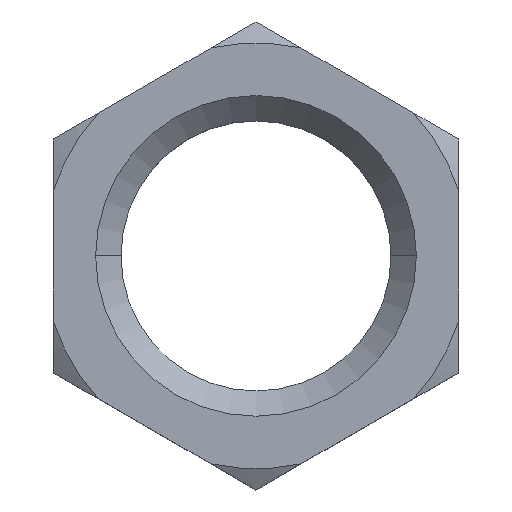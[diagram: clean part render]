
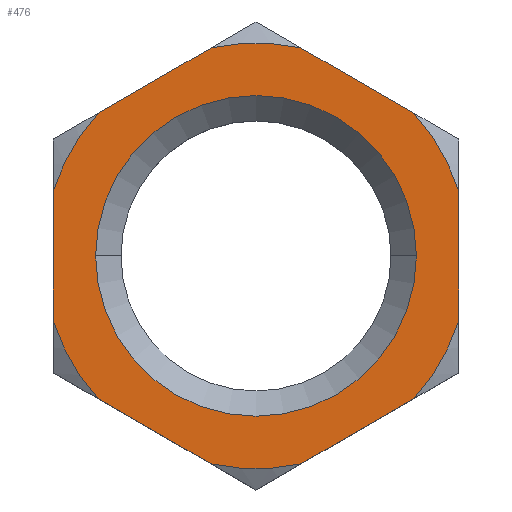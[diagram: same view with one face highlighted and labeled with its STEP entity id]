
A CAD part, top view. The second image highlights one B-rep face of the part: STEP entity #476.
In plain terms, the highlighted planar face has unit normal (0, 0, 1).
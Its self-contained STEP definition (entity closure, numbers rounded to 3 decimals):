
#11 = VERTEX_POINT ( 'NONE', #733 ) ;
#13 = CARTESIAN_POINT ( 'NONE',  ( -2.655, 12.324, 3.71 ) ) ;
#14 = EDGE_CURVE ( 'NONE', #712, #43, #148, .T. ) ;
#33 = CARTESIAN_POINT ( 'NONE',  ( 0., 13.856, 3.71 ) ) ;
#37 = EDGE_CURVE ( 'NONE', #532, #11, #877, .T. ) ;
#43 = VERTEX_POINT ( 'NONE', #824 ) ;
#45 = ORIENTED_EDGE ( 'NONE', *, *, #14, .T. ) ;
#47 = VECTOR ( 'NONE', #452, 1000. ) ;
#48 = LINE ( 'NONE', #324, #911 ) ;
#51 = VECTOR ( 'NONE', #625, 1000. ) ;
#53 = VERTEX_POINT ( 'NONE', #888 ) ;
#54 = AXIS2_PLACEMENT_3D ( 'NONE', #597, #95, #728 ) ;
#56 = EDGE_CURVE ( 'NONE', #428, #311, #48, .T. ) ;
#93 = CARTESIAN_POINT ( 'NONE',  ( 12., 6.928, 3.71 ) ) ;
#95 = DIRECTION ( 'NONE',  ( 0., 0., -1. ) ) ;
#96 = DIRECTION ( 'NONE',  ( -0.866, 0.5, 0. ) ) ;
#99 = AXIS2_PLACEMENT_3D ( 'NONE', #412, #840, #479 ) ;
#104 = CIRCLE ( 'NONE', #430, 9.5 ) ;
#118 = ORIENTED_EDGE ( 'NONE', *, *, #632, .T. ) ;
#119 = CARTESIAN_POINT ( 'NONE',  ( 0., 0., 3.71 ) ) ;
#137 = AXIS2_PLACEMENT_3D ( 'NONE', #555, #335, #766 ) ;
#148 = LINE ( 'NONE', #33, #512 ) ;
#155 = CARTESIAN_POINT ( 'NONE',  ( -9.345, -8.461, 3.71 ) ) ;
#162 = VERTEX_POINT ( 'NONE', #863 ) ;
#172 = EDGE_CURVE ( 'NONE', #428, #400, #755, .T. ) ;
#205 = DIRECTION ( 'NONE',  ( 0., 0., -1. ) ) ;
#214 = VERTEX_POINT ( 'NONE', #629 ) ;
#215 = CARTESIAN_POINT ( 'NONE',  ( 12., 3.863, 3.71 ) ) ;
#261 = DIRECTION ( 'NONE',  ( 0., 0., -1. ) ) ;
#262 = EDGE_CURVE ( 'NONE', #162, #400, #715, .T. ) ;
#285 = CARTESIAN_POINT ( 'NONE',  ( 0., 0., 3.71 ) ) ;
#289 = FACE_BOUND ( 'NONE', #455, .T. ) ;
#311 = VERTEX_POINT ( 'NONE', #802 ) ;
#324 = CARTESIAN_POINT ( 'NONE',  ( -12., -6.928, 3.71 ) ) ;
#327 = DIRECTION ( 'NONE',  ( 0.866, -0.5, 0. ) ) ;
#330 = CIRCLE ( 'NONE', #137, 12.606 ) ;
#331 = EDGE_CURVE ( 'NONE', #712, #11, #777, .T. ) ;
#333 = VERTEX_POINT ( 'NONE', #799 ) ;
#335 = DIRECTION ( 'NONE',  ( 0., 0., -1. ) ) ;
#370 = CARTESIAN_POINT ( 'NONE',  ( 0., 0., 3.71 ) ) ;
#381 = CARTESIAN_POINT ( 'NONE',  ( -12., 6.928, 3.71 ) ) ;
#389 = ORIENTED_EDGE ( 'NONE', *, *, #841, .F. ) ;
#400 = VERTEX_POINT ( 'NONE', #793 ) ;
#408 = LINE ( 'NONE', #790, #51 ) ;
#412 = CARTESIAN_POINT ( 'NONE',  ( 0., 0., 3.71 ) ) ;
#416 = CIRCLE ( 'NONE', #54, 12.606 ) ;
#418 = ORIENTED_EDGE ( 'NONE', *, *, #56, .T. ) ;
#428 = VERTEX_POINT ( 'NONE', #155 ) ;
#430 = AXIS2_PLACEMENT_3D ( 'NONE', #567, #844, #650 ) ;
#446 = CARTESIAN_POINT ( 'NONE',  ( -9.5, 0., 3.71 ) ) ;
#451 = DIRECTION ( 'NONE',  ( -0.866, -0.5, 0. ) ) ;
#452 = DIRECTION ( 'NONE',  ( 0., -1., 0. ) ) ;
#455 = EDGE_LOOP ( 'NONE', ( #118, #800 ) ) ;
#461 = EDGE_CURVE ( 'NONE', #730, #53, #408, .T. ) ;
#463 = CIRCLE ( 'NONE', #741, 12.606 ) ;
#465 = ORIENTED_EDGE ( 'NONE', *, *, #894, .F. ) ;
#476 = ADVANCED_FACE ( 'NONE', ( #289, #672 ), #903, .T. ) ;
#478 = CARTESIAN_POINT ( 'NONE',  ( 9.345, 8.461, 3.71 ) ) ;
#479 = DIRECTION ( 'NONE',  ( 1., 0., 0. ) ) ;
#480 = DIRECTION ( 'NONE',  ( -1., 0., 0. ) ) ;
#486 = DIRECTION ( 'NONE',  ( 0., 0., -1. ) ) ;
#493 = EDGE_CURVE ( 'NONE', #162, #43, #330, .T. ) ;
#512 = VECTOR ( 'NONE', #451, 1000. ) ;
#515 = CARTESIAN_POINT ( 'NONE',  ( 2.655, -12.324, 3.71 ) ) ;
#520 = DIRECTION ( 'NONE',  ( 0., 1., 0. ) ) ;
#529 = EDGE_CURVE ( 'NONE', #872, #333, #895, .T. ) ;
#532 = VERTEX_POINT ( 'NONE', #478 ) ;
#534 = VECTOR ( 'NONE', #96, 1000. ) ;
#540 = CIRCLE ( 'NONE', #757, 12.606 ) ;
#555 = CARTESIAN_POINT ( 'NONE',  ( 0., 0., 3.71 ) ) ;
#561 = ORIENTED_EDGE ( 'NONE', *, *, #262, .T. ) ;
#567 = CARTESIAN_POINT ( 'NONE',  ( 0., 0., 3.71 ) ) ;
#575 = ORIENTED_EDGE ( 'NONE', *, *, #37, .T. ) ;
#589 = ORIENTED_EDGE ( 'NONE', *, *, #493, .F. ) ;
#597 = CARTESIAN_POINT ( 'NONE',  ( 0., 0., 3.71 ) ) ;
#602 = ORIENTED_EDGE ( 'NONE', *, *, #172, .F. ) ;
#622 = DIRECTION ( 'NONE',  ( 1., 0., 0. ) ) ;
#625 = DIRECTION ( 'NONE',  ( 0.866, 0.5, 0. ) ) ;
#629 = CARTESIAN_POINT ( 'NONE',  ( 12., -3.863, 3.71 ) ) ;
#632 = EDGE_CURVE ( 'NONE', #333, #872, #104, .T. ) ;
#650 = DIRECTION ( 'NONE',  ( 1., 0., 0. ) ) ;
#651 = DIRECTION ( 'NONE',  ( -1., 0., 0. ) ) ;
#672 = FACE_OUTER_BOUND ( 'NONE', #690, .T. ) ;
#680 = AXIS2_PLACEMENT_3D ( 'NONE', #763, #486, #901 ) ;
#681 = VERTEX_POINT ( 'NONE', #215 ) ;
#683 = CARTESIAN_POINT ( 'NONE',  ( 0., 0., 3.71 ) ) ;
#690 = EDGE_LOOP ( 'NONE', ( #389, #817, #465, #575, #898, #45, #589, #561, #602, #418, #751, #828 ) ) ;
#712 = VERTEX_POINT ( 'NONE', #13 ) ;
#715 = LINE ( 'NONE', #381, #47 ) ;
#728 = DIRECTION ( 'NONE',  ( -1., 0., 0. ) ) ;
#730 = VERTEX_POINT ( 'NONE', #515 ) ;
#731 = CARTESIAN_POINT ( 'NONE',  ( 12., -6.928, 3.71 ) ) ;
#733 = CARTESIAN_POINT ( 'NONE',  ( 2.655, 12.324, 3.71 ) ) ;
#741 = AXIS2_PLACEMENT_3D ( 'NONE', #285, #789, #651 ) ;
#744 = EDGE_CURVE ( 'NONE', #730, #311, #463, .T. ) ;
#748 = VECTOR ( 'NONE', #520, 1000. ) ;
#750 = AXIS2_PLACEMENT_3D ( 'NONE', #119, #205, #622 ) ;
#751 = ORIENTED_EDGE ( 'NONE', *, *, #744, .F. ) ;
#755 = CIRCLE ( 'NONE', #680, 12.606 ) ;
#757 = AXIS2_PLACEMENT_3D ( 'NONE', #370, #792, #865 ) ;
#758 = LINE ( 'NONE', #731, #748 ) ;
#763 = CARTESIAN_POINT ( 'NONE',  ( 0., 0., 3.71 ) ) ;
#766 = DIRECTION ( 'NONE',  ( -1., 0., 0. ) ) ;
#777 = CIRCLE ( 'NONE', #826, 12.606 ) ;
#789 = DIRECTION ( 'NONE',  ( 0., 0., -1. ) ) ;
#790 = CARTESIAN_POINT ( 'NONE',  ( 0., -13.856, 3.71 ) ) ;
#792 = DIRECTION ( 'NONE',  ( 0., 0., -1. ) ) ;
#793 = CARTESIAN_POINT ( 'NONE',  ( -12., -3.863, 3.71 ) ) ;
#799 = CARTESIAN_POINT ( 'NONE',  ( 9.5, 0., 3.71 ) ) ;
#800 = ORIENTED_EDGE ( 'NONE', *, *, #529, .T. ) ;
#802 = CARTESIAN_POINT ( 'NONE',  ( -2.655, -12.324, 3.71 ) ) ;
#817 = ORIENTED_EDGE ( 'NONE', *, *, #866, .T. ) ;
#824 = CARTESIAN_POINT ( 'NONE',  ( -9.345, 8.461, 3.71 ) ) ;
#826 = AXIS2_PLACEMENT_3D ( 'NONE', #683, #261, #480 ) ;
#828 = ORIENTED_EDGE ( 'NONE', *, *, #461, .T. ) ;
#840 = DIRECTION ( 'NONE',  ( 0., 0., 1. ) ) ;
#841 = EDGE_CURVE ( 'NONE', #214, #53, #540, .T. ) ;
#844 = DIRECTION ( 'NONE',  ( 0., 0., -1. ) ) ;
#863 = CARTESIAN_POINT ( 'NONE',  ( -12., 3.863, 3.71 ) ) ;
#865 = DIRECTION ( 'NONE',  ( -1., 0., 0. ) ) ;
#866 = EDGE_CURVE ( 'NONE', #214, #681, #758, .T. ) ;
#872 = VERTEX_POINT ( 'NONE', #446 ) ;
#877 = LINE ( 'NONE', #93, #534 ) ;
#888 = CARTESIAN_POINT ( 'NONE',  ( 9.345, -8.461, 3.71 ) ) ;
#894 = EDGE_CURVE ( 'NONE', #532, #681, #416, .T. ) ;
#895 = CIRCLE ( 'NONE', #750, 9.5 ) ;
#898 = ORIENTED_EDGE ( 'NONE', *, *, #331, .F. ) ;
#901 = DIRECTION ( 'NONE',  ( -1., 0., 0. ) ) ;
#903 = PLANE ( 'NONE',  #99 ) ;
#911 = VECTOR ( 'NONE', #327, 1000. ) ;
